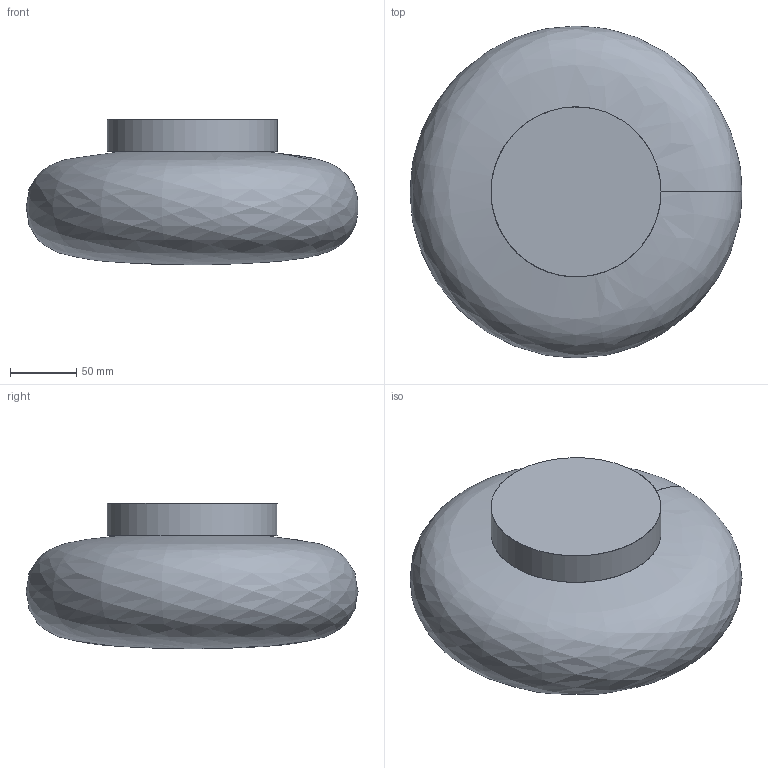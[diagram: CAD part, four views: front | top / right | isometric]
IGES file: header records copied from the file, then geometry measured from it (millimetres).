
Global section: file name: /Users/064_p/Desktop/3d data for homepage/SNOWBALL25 C.igs; native system: Rhinoceros ( Jul  7 2025 ); preprocessor: Trout Lake IGES 012 Jul  7 2025; date: 260805.075616; units: millimetre
Bounding box: 249.95 x 250 x 109.44 mm (x, y, z)
Surface area: 149912.4 mm2 (no closed solid volume)
Topology: 0 solids, 0 shells, 4 faces, 19 edges, 16 vertices
Faces by surface type: bspline 4
